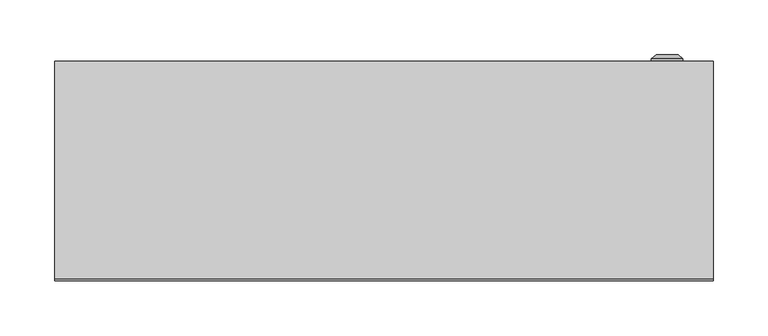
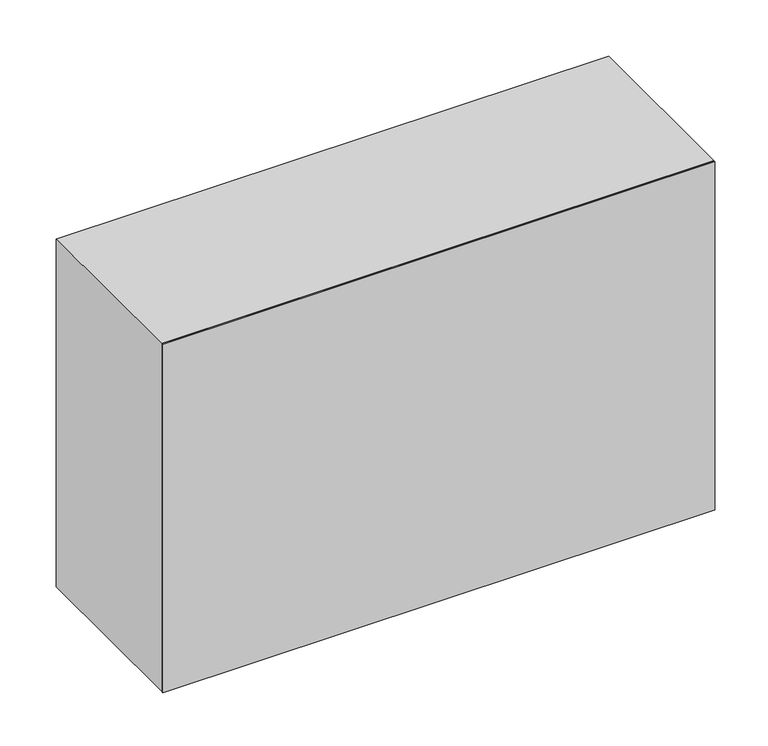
"""IFC4 building model written with IfcOpenShell, lengths in millimetres: proxy geometry, ЩМП : ЩМП-4.6.2_400х600х200."""

from ifc_helpers import new_model, si_unit, frame, origin, origin_with_axes, place, context, project, spatial, polyline, circle_curve, outline, extrude, source, transform, mapped, element, save
from ifc_brep_helpers import plane_surface, cylinder_surface, revolved_surface, advanced_brep


def electrical_equipment_a36ba838(model_context):
    return source(origin(), model_context, "Body", "SolidModel", [
        advanced_brep(
        [(243.669873, 200.0, 197.5), (272.330127, 200.0, 197.5), (258.0, 200.0, 197.5), (243.669873, 202.366592, 197.5), (272.330127, 202.366592, 197.5), (248.0, 206.0, 197.5), (268.0, 206.0, 197.5), (256.1080471, 206.0, 197.5), (259.8919529, 206.0, 197.5), (256.1080471, 204.9822294, 197.5), (259.8919529, 204.9822294, 197.5), (258.0, 204.9822294, 197.5)],
        [
            (0, 1, circle_curve(frame((258.0, 200.0, 197.5), z_axis=(0.0, -1.0, 0.0), x_axis=(1.0, 0.0, 0.0)), 14.330127)),
            (1, 2),
            (2, 0),
            (1, 0, circle_curve(frame((258.0, 200.0, 197.5), z_axis=(0.0, -1.0, 0.0), x_axis=(1.0, 0.0, 0.0)), 14.330127)),
            (3, 4, circle_curve(frame((258.0, 202.366592, 197.5), z_axis=(0.0, -1.0, 0.0), x_axis=(1.0, 0.0, 0.0)), 14.330127)),
            (4, 1),
            (0, 3),
            (4, 3, circle_curve(frame((258.0, 202.366592, 197.5), z_axis=(0.0, -1.0, 0.0), x_axis=(1.0, 0.0, 0.0)), 14.330127)),
            (5, 6, circle_curve(frame((258.0, 206.0, 197.5), z_axis=(0.0, -1.0, 0.0), x_axis=(1.0, 0.0, 0.0)), 10.0)),
            (6, 4),
            (3, 5),
            (6, 5, circle_curve(frame((258.0, 206.0, 197.5), z_axis=(0.0, -1.0, 0.0), x_axis=(1.0, 0.0, 0.0)), 10.0)),
            (7, 8, circle_curve(frame((258.0, 206.0, 197.5), z_axis=(0.0, -1.0, 0.0), x_axis=(1.0, 0.0, 0.0)), 1.8919529)),
            (8, 6),
            (5, 7),
            (8, 7, circle_curve(frame((258.0, 206.0, 197.5), z_axis=(0.0, -1.0, 0.0), x_axis=(1.0, 0.0, 0.0)), 1.8919529)),
            (9, 10, circle_curve(frame((258.0, 204.9822294, 197.5), z_axis=(0.0, -1.0, 0.0), x_axis=(1.0, 0.0, 0.0)), 1.8919529)),
            (10, 8),
            (7, 9),
            (10, 9, circle_curve(frame((258.0, 204.9822294, 197.5), z_axis=(0.0, -1.0, 0.0), x_axis=(1.0, 0.0, 0.0)), 1.8919529)),
            (11, 10),
            (9, 11),
        ],
        [
            plane_surface(frame((258.0, 200.0, 197.5), z_axis=(0.0, -1.0, 0.0), x_axis=(1.0, 0.0, 0.0))),
            cylinder_surface(frame((258.0, 213.1348851, 197.5), z_axis=(0.0, 1.0, 0.0), x_axis=(1.0, 0.0, 0.0)), 14.330127),
            revolved_surface(polyline([(272.330127, 202.366592, 197.5), (268.0, 206.0, 197.5)]), (258.0, 213.1348851, 197.5), (0.0, 1.0, 0.0)),
            plane_surface(frame((258.0, 206.0, 197.5), z_axis=(0.0, 1.0, 0.0), x_axis=(1.0, 0.0, 0.0))),
            revolved_surface(polyline([(259.8919529, 206.0, 197.5), (259.8919529, 204.9822294, 197.5)]), (258.0, 213.1348851, 197.5), (0.0, 1.0, 0.0)),
            plane_surface(frame((258.0, 204.9822294, 197.5), z_axis=(0.0, 1.0, 0.0), x_axis=(1.0, 0.0, 0.0))),
        ],
        [
            (0, [[1, 2, 3]]),
            (0, [[4, -3, -2]]),
            (1, [[5, 6, -1, 7]]),
            (1, [[8, -7, -4, -6]]),
            (2, [[9, 10, -5, 11]]),
            (2, [[12, -11, -8, -10]]),
            (3, [[13, 14, -9, 15]]),
            (3, [[16, -15, -12, -14]]),
            (4, [[17, 18, -13, 19]]),
            (4, [[20, -19, -16, -18]]),
            (5, [[21, -17, 22]]),
            (5, [[-22, -20, -21]]),
        ],
    ),
        extrude(outline(polyline([(283.0, 175.0), (-283.0, 175.0), (-283.0, 200.0), (283.0, 200.0), (283.0, 175.0)])), frame((0.0, 0.0, 17.25), z_axis=(0.0, 0.0, 1.0), x_axis=(1.0, 0.0, 0.0)), (0.0, 0.0, 1.0), 365.5),
        extrude(outline(polyline([(400.0, -300.0033905), (0.0, -300.0033905), (0.0, 299.9966095), (400.0, 299.9966095), (400.0, -300.0033905)]), holes=[polyline([(365.0, -268.0033905), (365.0, 267.9966095), (30.0, 267.9966095), (30.0, -268.0033905), (365.0, -268.0033905)])]), frame((0.0, 2.0, 0.0), z_axis=(0.0, 1.0, 0.0), x_axis=(0.0, 0.0, 1.0)), (0.0, 0.0, 1.0), 198.0),
        extrude(outline(polyline([(300.0, 0.0), (-300.0, 0.0), (-300.0, 2.0), (300.0, 2.0), (300.0, 0.0)])), origin_with_axes(), (0.0, 0.0, 1.0), 400.0),
    ])


if __name__ == "__main__":
    model = new_model("IFC4")
    model_context = context("Model", 3, world=origin())
    ifc_project = project(units=[si_unit("LENGTHUNIT", "METRE", prefix="MILLI")], contexts=[model_context])
    site = spatial("IfcSite", under=ifc_project)
    building = spatial("IfcBuilding", under=site)
    placement = place(None, origin())
    electrical_equipment_shape = electrical_equipment_a36ba838(model_context)
    element("IfcBuildingElementProxy", 1, Name="ЩМП : ЩМП-4.6.2_400х600х200", ObjectType="ЩМП : ЩМП-4.6.2_400х600х200", at=placement, inside=building, context=model_context, shape_type="MappedRepresentation", body=[
        mapped(electrical_equipment_shape, transform((0.0, 0.0, 0.0), x_axis=(1.0, 0.0, 0.0), y_axis=(0.0, 1.0, 0.0), z_axis=(0.0, 0.0, 1.0))),
    ])
    save(model, "model.ifc")
